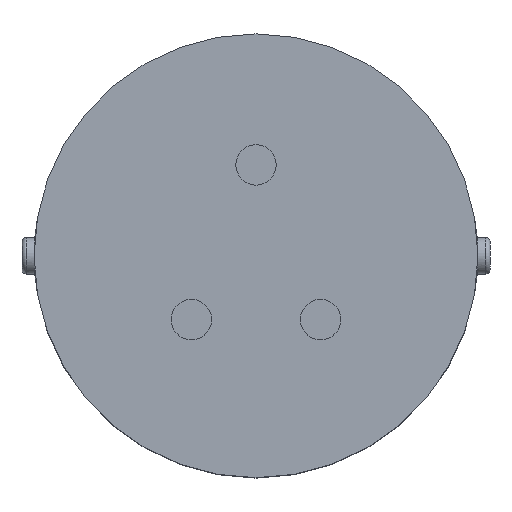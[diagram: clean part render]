
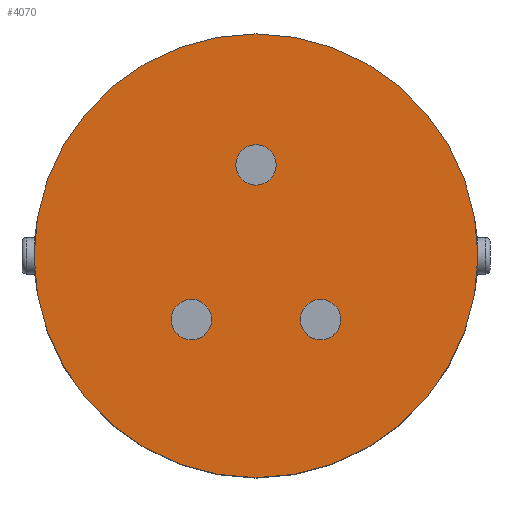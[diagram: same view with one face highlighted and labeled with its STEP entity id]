
A CAD part, top view. The second image highlights one B-rep face of the part: STEP entity #4070.
In plain terms, the highlighted planar face has unit normal (0, 0, 1).
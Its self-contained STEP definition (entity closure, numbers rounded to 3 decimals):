
#474 = FACE_OUTER_BOUND ( 'NONE', #12601, .T. ) ;
#1090 = AXIS2_PLACEMENT_3D ( 'NONE', #8713, #12010, #9976 ) ;
#1092 = CARTESIAN_POINT ( 'NONE',  ( 0., 0., 0. ) ) ;
#1126 = DIRECTION ( 'NONE',  ( -1., 0., 0. ) ) ;
#1342 = AXIS2_PLACEMENT_3D ( 'NONE', #4970, #2688, #6110 ) ;
#1498 = EDGE_LOOP ( 'NONE', ( #3882 ) ) ;
#2155 = FACE_BOUND ( 'NONE', #4701, .T. ) ;
#2265 = DIRECTION ( 'NONE',  ( 0., 0., -1. ) ) ;
#2560 = AXIS2_PLACEMENT_3D ( 'NONE', #1092, #2265, #9852 ) ;
#2688 = DIRECTION ( 'NONE',  ( 0., 0., 1. ) ) ;
#2917 = AXIS2_PLACEMENT_3D ( 'NONE', #13017, #5523, #1126 ) ;
#3259 = AXIS2_PLACEMENT_3D ( 'NONE', #13745, #3929, #10604 ) ;
#3835 = EDGE_CURVE ( 'NONE', #8987, #8987, #10642, .T. ) ;
#3882 = ORIENTED_EDGE ( 'NONE', *, *, #8955, .F. ) ;
#3910 = CARTESIAN_POINT ( 'NONE',  ( -4.2, -3.164, 0. ) ) ;
#3929 = DIRECTION ( 'NONE',  ( 0., 0., 1. ) ) ;
#4070 = ADVANCED_FACE ( 'NONE', ( #2155, #12323, #7946, #474 ), #5100, .T. ) ;
#4305 = EDGE_CURVE ( 'NONE', #6443, #6443, #10786, .T. ) ;
#4701 = EDGE_LOOP ( 'NONE', ( #6770 ) ) ;
#4970 = CARTESIAN_POINT ( 'NONE',  ( 0., 4.5, 0. ) ) ;
#5063 = VERTEX_POINT ( 'NONE', #12523 ) ;
#5100 = PLANE ( 'NONE',  #3259 ) ;
#5523 = DIRECTION ( 'NONE',  ( 0., 0., 1. ) ) ;
#5997 = ORIENTED_EDGE ( 'NONE', *, *, #4305, .F. ) ;
#6110 = DIRECTION ( 'NONE',  ( 1., 0., 0. ) ) ;
#6443 = VERTEX_POINT ( 'NONE', #11580 ) ;
#6770 = ORIENTED_EDGE ( 'NONE', *, *, #12188, .F. ) ;
#6817 = EDGE_LOOP ( 'NONE', ( #5997 ) ) ;
#6979 = CIRCLE ( 'NONE', #1342, 1. ) ;
#7396 = CIRCLE ( 'NONE', #2917, 1. ) ;
#7946 = FACE_BOUND ( 'NONE', #1498, .T. ) ;
#8713 = CARTESIAN_POINT ( 'NONE',  ( 3.2, -3.164, 0. ) ) ;
#8955 = EDGE_CURVE ( 'NONE', #5063, #5063, #6979, .T. ) ;
#8987 = VERTEX_POINT ( 'NONE', #13595 ) ;
#9653 = VERTEX_POINT ( 'NONE', #3910 ) ;
#9852 = DIRECTION ( 'NONE',  ( -1., 0., 0. ) ) ;
#9976 = DIRECTION ( 'NONE',  ( 1., 0., 0. ) ) ;
#10604 = DIRECTION ( 'NONE',  ( 1., 0., 0. ) ) ;
#10642 = CIRCLE ( 'NONE', #2560, 11. ) ;
#10786 = CIRCLE ( 'NONE', #1090, 1. ) ;
#11256 = ORIENTED_EDGE ( 'NONE', *, *, #3835, .F. ) ;
#11580 = CARTESIAN_POINT ( 'NONE',  ( 4.2, -3.164, 0. ) ) ;
#12010 = DIRECTION ( 'NONE',  ( 0., 0., 1. ) ) ;
#12188 = EDGE_CURVE ( 'NONE', #9653, #9653, #7396, .T. ) ;
#12323 = FACE_BOUND ( 'NONE', #6817, .T. ) ;
#12523 = CARTESIAN_POINT ( 'NONE',  ( 1., 4.5, 0. ) ) ;
#12601 = EDGE_LOOP ( 'NONE', ( #11256 ) ) ;
#13017 = CARTESIAN_POINT ( 'NONE',  ( -3.2, -3.164, 0. ) ) ;
#13595 = CARTESIAN_POINT ( 'NONE',  ( -11., 0., 0. ) ) ;
#13745 = CARTESIAN_POINT ( 'NONE',  ( 0., 0., 0. ) ) ;
